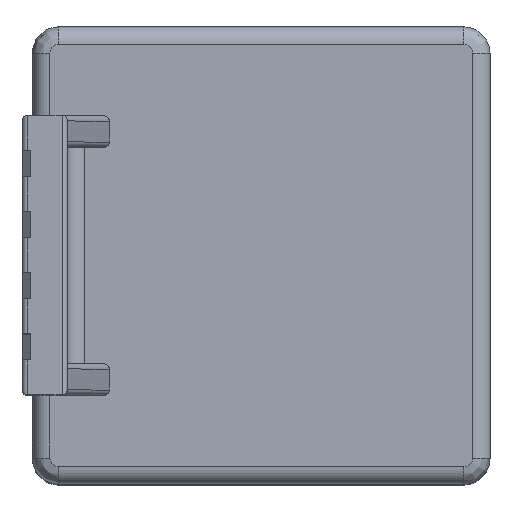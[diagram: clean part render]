
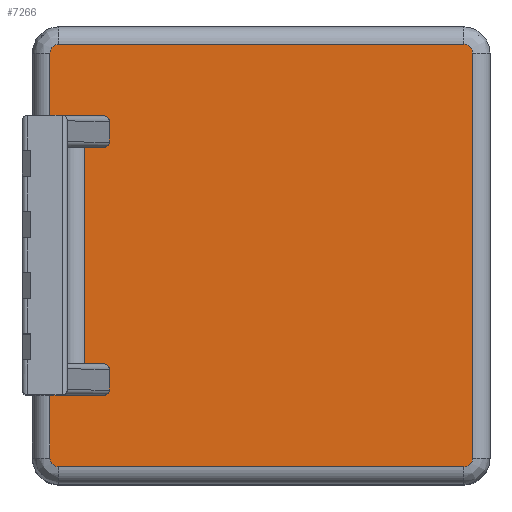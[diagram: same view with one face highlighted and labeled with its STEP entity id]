
A CAD part, top view. The second image highlights one B-rep face of the part: STEP entity #7266.
In plain terms, the highlighted planar face has unit normal (0, 0, 1).
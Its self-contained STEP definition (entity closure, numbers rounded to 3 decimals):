
#7237 = EDGE_CURVE('',#7238,#7240,#7242,.T.);
#7238 = VERTEX_POINT('',#7239);
#7239 = CARTESIAN_POINT('',(-12.1,-8.,23.7));
#7240 = VERTEX_POINT('',#7241);
#7241 = CARTESIAN_POINT('',(-12.1,-11.6,23.7));
#7242 = LINE('',#7243,#7244);
#7243 = CARTESIAN_POINT('',(-12.1,13.1,23.7));
#7244 = VECTOR('',#7245,1.);
#7245 = DIRECTION('',(0.,-1.,0.));
#7266 = ADVANCED_FACE('',(#7267),#7428,.F.);
#7267 = FACE_BOUND('',#7268,.T.);
#7268 = EDGE_LOOP('',(#7269,#7279,#7287,#7295,#7304,#7312,#7321,#7327,
    #7328,#7337,#7345,#7354,#7362,#7371,#7379,#7388,#7396,#7404,#7413,
    #7421));
#7269 = ORIENTED_EDGE('',*,*,#7270,.F.);
#7270 = EDGE_CURVE('',#7271,#7273,#7275,.T.);
#7271 = VERTEX_POINT('',#7272);
#7272 = CARTESIAN_POINT('',(-10.1,6.2,23.7));
#7273 = VERTEX_POINT('',#7274);
#7274 = CARTESIAN_POINT('',(-9.02,6.2,23.7));
#7275 = LINE('',#7276,#7277);
#7276 = CARTESIAN_POINT('',(-11.1,6.2,23.7));
#7277 = VECTOR('',#7278,1.);
#7278 = DIRECTION('',(1.,0.,0.));
#7279 = ORIENTED_EDGE('',*,*,#7280,.T.);
#7280 = EDGE_CURVE('',#7271,#7281,#7283,.T.);
#7281 = VERTEX_POINT('',#7282);
#7282 = CARTESIAN_POINT('',(-10.1,-6.2,23.7));
#7283 = LINE('',#7284,#7285);
#7284 = CARTESIAN_POINT('',(-10.1,-6.2,23.7));
#7285 = VECTOR('',#7286,1.);
#7286 = DIRECTION('',(0.,-1.,0.));
#7287 = ORIENTED_EDGE('',*,*,#7288,.T.);
#7288 = EDGE_CURVE('',#7281,#7289,#7291,.T.);
#7289 = VERTEX_POINT('',#7290);
#7290 = CARTESIAN_POINT('',(-9.02,-6.2,23.7));
#7291 = LINE('',#7292,#7293);
#7292 = CARTESIAN_POINT('',(-11.1,-6.2,23.7));
#7293 = VECTOR('',#7294,1.);
#7294 = DIRECTION('',(1.,0.,0.));
#7295 = ORIENTED_EDGE('',*,*,#7296,.T.);
#7296 = EDGE_CURVE('',#7289,#7297,#7299,.T.);
#7297 = VERTEX_POINT('',#7298);
#7298 = CARTESIAN_POINT('',(-8.7,-6.5,23.7));
#7299 = ELLIPSE('',#7300,0.32,0.3);
#7300 = AXIS2_PLACEMENT_3D('',#7301,#7302,#7303);
#7301 = CARTESIAN_POINT('',(-9.02,-6.5,23.7));
#7302 = DIRECTION('',(0.,0.,-1.));
#7303 = DIRECTION('',(1.,0.,0.));
#7304 = ORIENTED_EDGE('',*,*,#7305,.T.);
#7305 = EDGE_CURVE('',#7297,#7306,#7308,.T.);
#7306 = VERTEX_POINT('',#7307);
#7307 = CARTESIAN_POINT('',(-8.7,-7.7,23.7));
#7308 = LINE('',#7309,#7310);
#7309 = CARTESIAN_POINT('',(-8.7,-6.2,23.7));
#7310 = VECTOR('',#7311,1.);
#7311 = DIRECTION('',(0.,-1.,0.));
#7312 = ORIENTED_EDGE('',*,*,#7313,.T.);
#7313 = EDGE_CURVE('',#7306,#7314,#7316,.T.);
#7314 = VERTEX_POINT('',#7315);
#7315 = CARTESIAN_POINT('',(-9.02,-8.,23.7));
#7316 = ELLIPSE('',#7317,0.32,0.3);
#7317 = AXIS2_PLACEMENT_3D('',#7318,#7319,#7320);
#7318 = CARTESIAN_POINT('',(-9.02,-7.7,23.7));
#7319 = DIRECTION('',(0.,0.,-1.));
#7320 = DIRECTION('',(1.,0.,0.));
#7321 = ORIENTED_EDGE('',*,*,#7322,.F.);
#7322 = EDGE_CURVE('',#7238,#7314,#7323,.T.);
#7323 = LINE('',#7324,#7325);
#7324 = CARTESIAN_POINT('',(-13.1,-8.,23.7));
#7325 = VECTOR('',#7326,1.);
#7326 = DIRECTION('',(1.,0.,0.));
#7327 = ORIENTED_EDGE('',*,*,#7237,.T.);
#7328 = ORIENTED_EDGE('',*,*,#7329,.F.);
#7329 = EDGE_CURVE('',#7330,#7240,#7332,.T.);
#7330 = VERTEX_POINT('',#7331);
#7331 = CARTESIAN_POINT('',(-11.6,-12.1,23.7));
#7332 = CIRCLE('',#7333,0.5);
#7333 = AXIS2_PLACEMENT_3D('',#7334,#7335,#7336);
#7334 = CARTESIAN_POINT('',(-11.6,-11.6,23.7));
#7335 = DIRECTION('',(0.,0.,-1.));
#7336 = DIRECTION('',(0.,1.,0.));
#7337 = ORIENTED_EDGE('',*,*,#7338,.T.);
#7338 = EDGE_CURVE('',#7330,#7339,#7341,.T.);
#7339 = VERTEX_POINT('',#7340);
#7340 = CARTESIAN_POINT('',(11.6,-12.1,23.7));
#7341 = LINE('',#7342,#7343);
#7342 = CARTESIAN_POINT('',(-13.1,-12.1,23.7));
#7343 = VECTOR('',#7344,1.);
#7344 = DIRECTION('',(1.,0.,0.));
#7345 = ORIENTED_EDGE('',*,*,#7346,.F.);
#7346 = EDGE_CURVE('',#7347,#7339,#7349,.T.);
#7347 = VERTEX_POINT('',#7348);
#7348 = CARTESIAN_POINT('',(12.1,-11.6,23.7));
#7349 = CIRCLE('',#7350,0.5);
#7350 = AXIS2_PLACEMENT_3D('',#7351,#7352,#7353);
#7351 = CARTESIAN_POINT('',(11.6,-11.6,23.7));
#7352 = DIRECTION('',(0.,0.,-1.));
#7353 = DIRECTION('',(0.,1.,0.));
#7354 = ORIENTED_EDGE('',*,*,#7355,.T.);
#7355 = EDGE_CURVE('',#7347,#7356,#7358,.T.);
#7356 = VERTEX_POINT('',#7357);
#7357 = CARTESIAN_POINT('',(12.1,11.6,23.7));
#7358 = LINE('',#7359,#7360);
#7359 = CARTESIAN_POINT('',(12.1,13.1,23.7));
#7360 = VECTOR('',#7361,1.);
#7361 = DIRECTION('',(0.,1.,0.));
#7362 = ORIENTED_EDGE('',*,*,#7363,.F.);
#7363 = EDGE_CURVE('',#7364,#7356,#7366,.T.);
#7364 = VERTEX_POINT('',#7365);
#7365 = CARTESIAN_POINT('',(11.6,12.1,23.7));
#7366 = CIRCLE('',#7367,0.5);
#7367 = AXIS2_PLACEMENT_3D('',#7368,#7369,#7370);
#7368 = CARTESIAN_POINT('',(11.6,11.6,23.7));
#7369 = DIRECTION('',(0.,0.,-1.));
#7370 = DIRECTION('',(0.,1.,0.));
#7371 = ORIENTED_EDGE('',*,*,#7372,.T.);
#7372 = EDGE_CURVE('',#7364,#7373,#7375,.T.);
#7373 = VERTEX_POINT('',#7374);
#7374 = CARTESIAN_POINT('',(-11.6,12.1,23.7));
#7375 = LINE('',#7376,#7377);
#7376 = CARTESIAN_POINT('',(-13.1,12.1,23.7));
#7377 = VECTOR('',#7378,1.);
#7378 = DIRECTION('',(-1.,0.,0.));
#7379 = ORIENTED_EDGE('',*,*,#7380,.F.);
#7380 = EDGE_CURVE('',#7381,#7373,#7383,.T.);
#7381 = VERTEX_POINT('',#7382);
#7382 = CARTESIAN_POINT('',(-12.1,11.6,23.7));
#7383 = CIRCLE('',#7384,0.5);
#7384 = AXIS2_PLACEMENT_3D('',#7385,#7386,#7387);
#7385 = CARTESIAN_POINT('',(-11.6,11.6,23.7));
#7386 = DIRECTION('',(0.,0.,-1.));
#7387 = DIRECTION('',(0.,1.,0.));
#7388 = ORIENTED_EDGE('',*,*,#7389,.T.);
#7389 = EDGE_CURVE('',#7381,#7390,#7392,.T.);
#7390 = VERTEX_POINT('',#7391);
#7391 = CARTESIAN_POINT('',(-12.1,8.,23.7));
#7392 = LINE('',#7393,#7394);
#7393 = CARTESIAN_POINT('',(-12.1,13.1,23.7));
#7394 = VECTOR('',#7395,1.);
#7395 = DIRECTION('',(0.,-1.,0.));
#7396 = ORIENTED_EDGE('',*,*,#7397,.T.);
#7397 = EDGE_CURVE('',#7390,#7398,#7400,.T.);
#7398 = VERTEX_POINT('',#7399);
#7399 = CARTESIAN_POINT('',(-9.02,8.,23.7));
#7400 = LINE('',#7401,#7402);
#7401 = CARTESIAN_POINT('',(-13.1,8.,23.7));
#7402 = VECTOR('',#7403,1.);
#7403 = DIRECTION('',(1.,0.,0.));
#7404 = ORIENTED_EDGE('',*,*,#7405,.T.);
#7405 = EDGE_CURVE('',#7398,#7406,#7408,.T.);
#7406 = VERTEX_POINT('',#7407);
#7407 = CARTESIAN_POINT('',(-8.7,7.7,23.7));
#7408 = ELLIPSE('',#7409,0.32,0.3);
#7409 = AXIS2_PLACEMENT_3D('',#7410,#7411,#7412);
#7410 = CARTESIAN_POINT('',(-9.02,7.7,23.7));
#7411 = DIRECTION('',(0.,0.,-1.));
#7412 = DIRECTION('',(-1.,0.,0.));
#7413 = ORIENTED_EDGE('',*,*,#7414,.T.);
#7414 = EDGE_CURVE('',#7406,#7415,#7417,.T.);
#7415 = VERTEX_POINT('',#7416);
#7416 = CARTESIAN_POINT('',(-8.7,6.5,23.7));
#7417 = LINE('',#7418,#7419);
#7418 = CARTESIAN_POINT('',(-8.7,8.,23.7));
#7419 = VECTOR('',#7420,1.);
#7420 = DIRECTION('',(0.,-1.,0.));
#7421 = ORIENTED_EDGE('',*,*,#7422,.T.);
#7422 = EDGE_CURVE('',#7415,#7273,#7423,.T.);
#7423 = ELLIPSE('',#7424,0.32,0.3);
#7424 = AXIS2_PLACEMENT_3D('',#7425,#7426,#7427);
#7425 = CARTESIAN_POINT('',(-9.02,6.5,23.7));
#7426 = DIRECTION('',(0.,0.,-1.));
#7427 = DIRECTION('',(-1.,0.,0.));
#7428 = PLANE('',#7429);
#7429 = AXIS2_PLACEMENT_3D('',#7430,#7431,#7432);
#7430 = CARTESIAN_POINT('',(-13.1,13.1,23.7));
#7431 = DIRECTION('',(0.,0.,-1.));
#7432 = DIRECTION('',(0.,-1.,0.));
